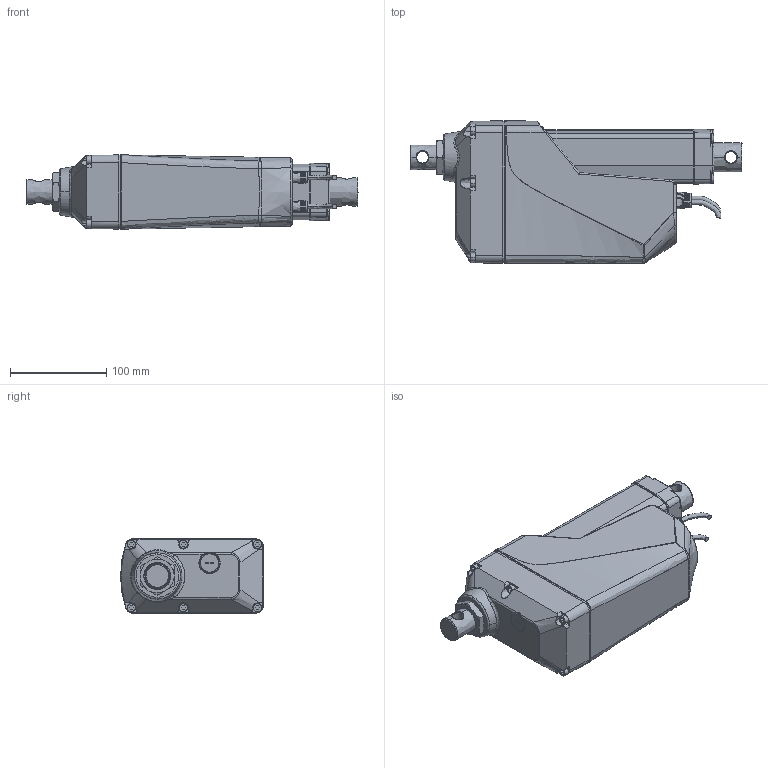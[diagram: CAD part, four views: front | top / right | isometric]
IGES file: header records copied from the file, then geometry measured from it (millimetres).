
Start section: SolidWorks IGES file using NURBS representation for surfaces
Global section: file name: C:\Users\lynn\Desktop\MK35-3D\MK35-220-100-SOLID.IGS; native system: SolidWorks 2015; preprocessor: SolidWorks 2015; author: lynn; date: 210723.104844; units: millimetre
Bounding box: 344.5 x 148 x 77 mm (x, y, z)
Surface area: 229908.4 mm2 (no closed solid volume)
Topology: 0 solids, 0 shells, 747 faces, 8925 edges, 8919 vertices
Faces by surface type: bspline 747
